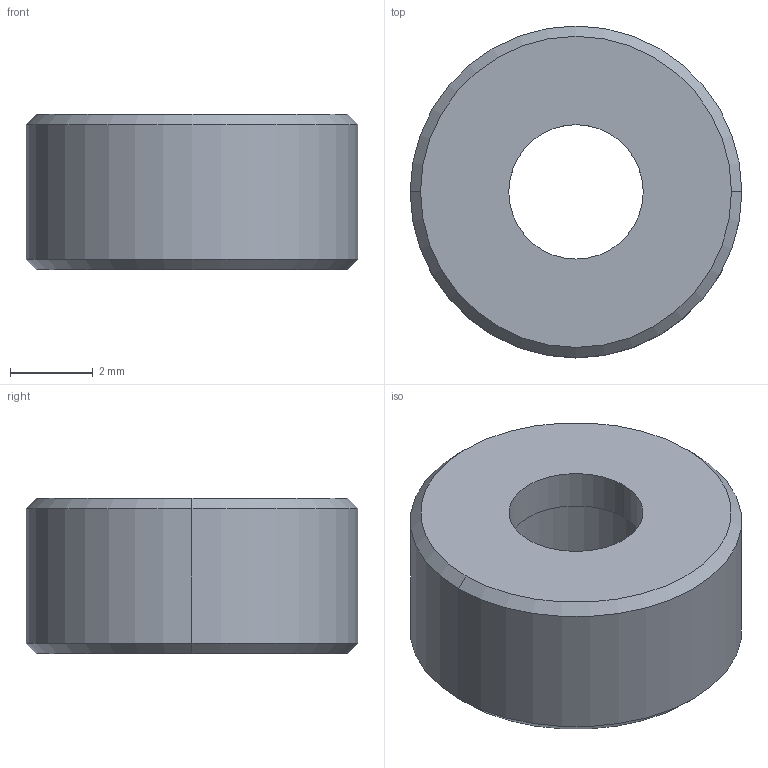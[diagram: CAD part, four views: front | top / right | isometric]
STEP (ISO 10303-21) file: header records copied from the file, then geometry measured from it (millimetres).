
FILE_DESCRIPTION(('CATIA V5 STEP Exchange','CAx-IF Rec.Pracs.--- Model Styling and Organization---1.4--- 2014-01-23','CAx-IF Rec.Pracs.---3D Tessellated Data Validation Properties---0.5---2014-09-14'),'2;1');
FILE_NAME('D:\CTA\NECTARCAM PROD\CTA-01 - Camera Module\CTA-0103 - Backplanes\CTA-010303 - Mechanical Components\CTA-010303-002 - Backplane_Mounting_Spacer.stp','2026-03-13T09:43:59+00:00',('none'),('none'),'CATIA Version 5-6 Release 2018 SP5 HF4','CATIA V5 STEP AP242','none');
FILE_SCHEMA(('AP242_MANAGED_MODEL_BASED_3D_ENGINEERING_MIM_LF {1 0 10303 442 1 1 4}'));
Length unit declared in the file: millimetre
Products named in the file (1): CTA-010303-002
Bounding box: 8 x 8 x 3.75 mm (x, y, z)
Volume: 132.7 mm3; surface area: 210.9 mm2
Topology: 1 solids, 1 shells, 15 faces, 30 edges, 18 vertices
Faces by surface type: cylinder 6, cone 6, plane 3
Entity records: 386 total; most frequent: CARTESIAN_POINT 61, ORIENTED_EDGE 60, DIRECTION 54, AXIS2_PLACEMENT_3D 31, EDGE_CURVE 30, CIRCLE 18, EDGE_LOOP 18, VERTEX_POINT 18
